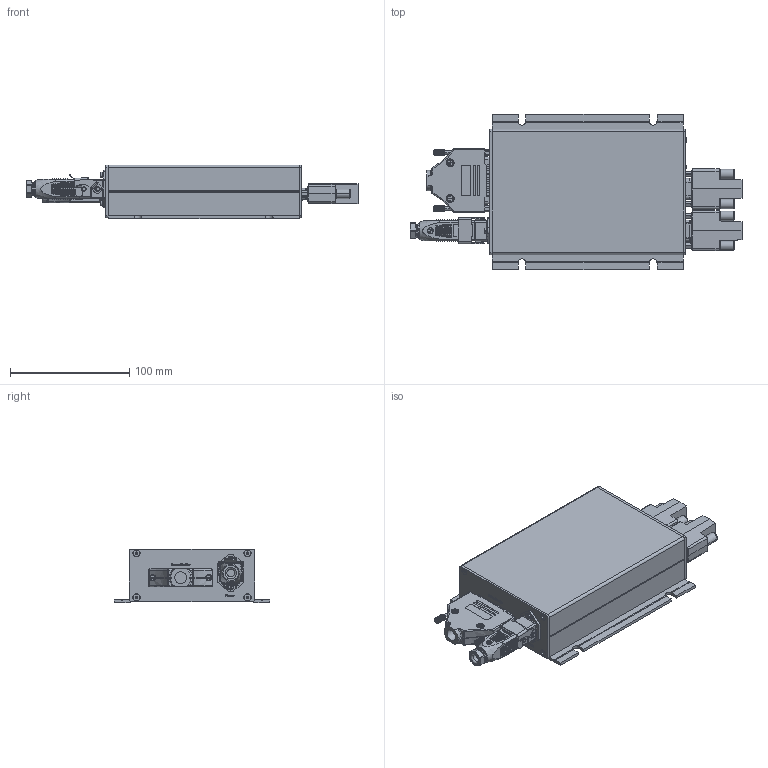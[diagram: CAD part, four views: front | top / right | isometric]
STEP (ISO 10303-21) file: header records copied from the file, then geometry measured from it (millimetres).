
FILE_DESCRIPTION(('Shutter Control Unit'),'2;1');
FILE_NAME('D:\Inventor\Shutter Control Unit\Arbeitsbereich\Shutter Control Unit Dummy.stp','2011-03-08T14:28:04',('Martin Polder'),('Bonn-Shutter'),'Autodesk Inventor 2008','Autodesk Inventor 2008','');
FILE_SCHEMA(('AUTOMOTIVE_DESIGN { 1 0 10303 214 1 1 1 1 }'));
Length unit declared in the file: millimetre
Products named in the file (5): Shutter Control Unit; Stecker STAK 20; Sub-D25 m Metallstecker; Sub-D9 m pattern
Assembly tree (5 placements, depth 2):
  Shutter Control Unit
    Shutter Control Unit
    Stecker STAK 20
    Sub-D25 m Metallstecker
    Sub-D9 m pattern  x2
Bounding box: 278.1 x 130 x 45 mm (x, y, z)
Volume: 854162.3 mm3; surface area: 101925.9 mm2
Topology: 6 solids, 12 shells, 4044 faces, 10442 edges, 6867 vertices
Faces by surface type: plane 2230, bspline 1068, cylinder 589, torus 85, cone 55, sphere 17
Full cylindrical faces by diameter (mm): 0.991 x43, 2 x6, 2.117 x1, 2.2 x2, 2.224 x2, 2.301 x1, 2.5 x2, 2.6 x1, 3 x6, 3.2 x2, 3.8 x2, 4 x4, 4.722 x2, 5 x3, 5.54 x8, 6 x1, 6.5 x1, 11.28 x1, 12.5 x1
Entity records: 139872 total; most frequent: CARTESIAN_POINT 50728, ORIENTED_EDGE 19104, DIRECTION 14859, EDGE_CURVE 9552, VERTEX_POINT 6369, VECTOR 6107, LINE 6107, EDGE_LOOP 4419
